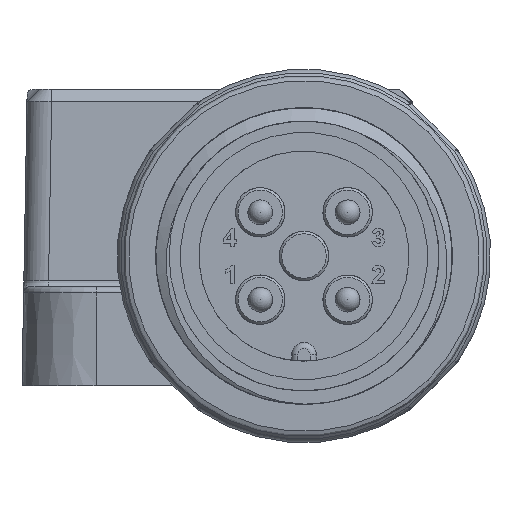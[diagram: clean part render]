
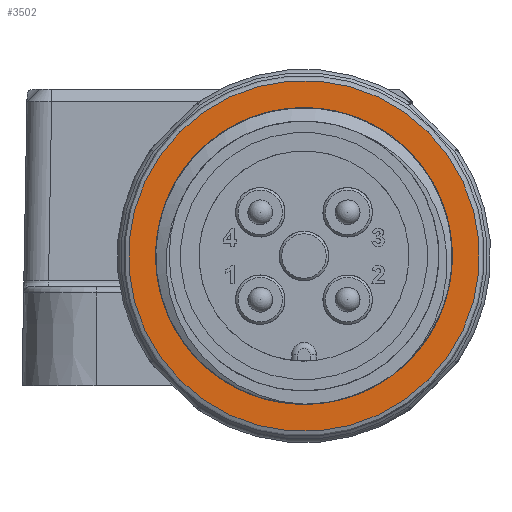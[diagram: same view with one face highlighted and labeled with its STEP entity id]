
A CAD part, left-side view. The second image highlights one B-rep face of the part: STEP entity #3502.
In plain terms, the highlighted planar face has unit normal (-1, 0, 0) as drawn and (0, 1, 0) by its records, which use the part's own axes.
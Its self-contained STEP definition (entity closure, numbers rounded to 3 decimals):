
#264=CIRCLE('',#5068,7.1);
#265=CIRCLE('',#5069,6.);
#266=CIRCLE('',#5070,5.459);
#436=B_SPLINE_CURVE_WITH_KNOTS('',3,(#7535,#7536,#7537,#7538,#7539,#7540,
#7541),.UNSPECIFIED.,.F.,.F.,(4,1,1,1,4),(0.,0.003,
0.006,0.008,0.011),
 .UNSPECIFIED.);
#437=B_SPLINE_CURVE_WITH_KNOTS('',3,(#7545,#7546,#7547,#7548,#7549,#7550,
#7551),.UNSPECIFIED.,.F.,.F.,(4,1,1,1,4),(0.,0.003,0.006,
0.008,0.011),.UNSPECIFIED.);
#1327=ORIENTED_EDGE('',*,*,#2113,.T.);
#1328=ORIENTED_EDGE('',*,*,#2114,.T.);
#1329=ORIENTED_EDGE('',*,*,#2115,.F.);
#1330=ORIENTED_EDGE('',*,*,#2116,.F.);
#1331=ORIENTED_EDGE('',*,*,#2117,.F.);
#2113=EDGE_CURVE('',#2528,#2528,#264,.T.);
#2114=EDGE_CURVE('',#2529,#2530,#265,.T.);
#2115=EDGE_CURVE('',#2531,#2530,#436,.T.);
#2116=EDGE_CURVE('',#2532,#2531,#266,.T.);
#2117=EDGE_CURVE('',#2529,#2532,#437,.T.);
#2528=VERTEX_POINT('',#7531);
#2529=VERTEX_POINT('',#7533);
#2530=VERTEX_POINT('',#7534);
#2531=VERTEX_POINT('',#7542);
#2532=VERTEX_POINT('',#7544);
#2780=EDGE_LOOP('',(#1327));
#2781=EDGE_LOOP('',(#1328,#1329,#1330,#1331));
#3106=FACE_BOUND('',#2780,.T.);
#3107=FACE_BOUND('',#2781,.T.);
#3351=PLANE('',#5067);
#3502=ADVANCED_FACE('',(#3106,#3107),#3351,.T.);
#5067=AXIS2_PLACEMENT_3D('',#7529,#5796,#5797);
#5068=AXIS2_PLACEMENT_3D('',#7530,#5798,#5799);
#5069=AXIS2_PLACEMENT_3D('',#7532,#5800,#5801);
#5070=AXIS2_PLACEMENT_3D('',#7543,#5802,#5803);
#5796=DIRECTION('',(0.,1.,0.));
#5797=DIRECTION('',(-0.707,0.,-0.707));
#5798=DIRECTION('',(0.,1.,0.));
#5799=DIRECTION('',(-0.707,0.,-0.707));
#5800=DIRECTION('',(0.,-1.,0.));
#5801=DIRECTION('',(0.707,0.,0.707));
#5802=DIRECTION('',(0.,1.,0.));
#5803=DIRECTION('',(-0.707,0.,-0.707));
#7529=CARTESIAN_POINT('',(5.162,141.5,5.162));
#7530=CARTESIAN_POINT('',(0.,141.5,0.));
#7531=CARTESIAN_POINT('',(-5.02,141.5,-5.02));
#7532=CARTESIAN_POINT('',(0.,141.5,0.));
#7533=CARTESIAN_POINT('',(-4.243,141.5,-4.243));
#7534=CARTESIAN_POINT('',(0.003,141.5,-6.));
#7535=CARTESIAN_POINT('',(5.04,141.5,2.096));
#7536=CARTESIAN_POINT('',(5.448,141.5,1.241));
#7537=CARTESIAN_POINT('',(5.802,141.5,-0.657));
#7538=CARTESIAN_POINT('',(4.893,141.5,-3.424));
#7539=CARTESIAN_POINT('',(2.797,141.5,-5.417));
#7540=CARTESIAN_POINT('',(0.948,141.5,-5.956));
#7541=CARTESIAN_POINT('',(0.003,141.5,-6.));
#7542=CARTESIAN_POINT('',(5.04,141.5,2.096));
#7543=CARTESIAN_POINT('',(0.,141.5,0.));
#7544=CARTESIAN_POINT('',(-2.096,141.5,5.041));
#7545=CARTESIAN_POINT('',(-4.243,141.5,-4.243));
#7546=CARTESIAN_POINT('',(-4.881,141.5,-3.544));
#7547=CARTESIAN_POINT('',(-5.807,141.5,-1.858));
#7548=CARTESIAN_POINT('',(-5.88,141.5,1.044));
#7549=CARTESIAN_POINT('',(-4.567,141.5,3.632));
#7550=CARTESIAN_POINT('',(-2.988,141.5,4.722));
#7551=CARTESIAN_POINT('',(-2.096,141.5,5.041));
